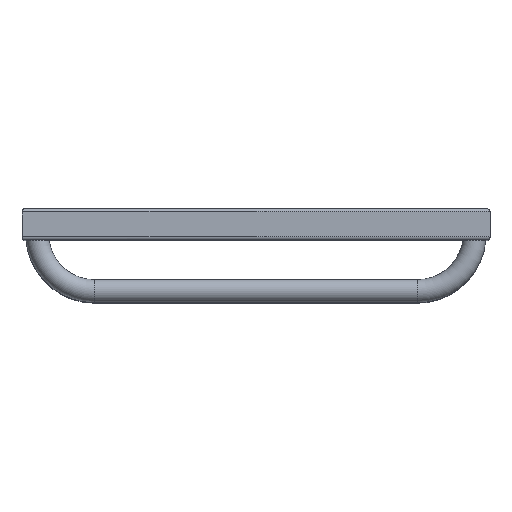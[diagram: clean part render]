
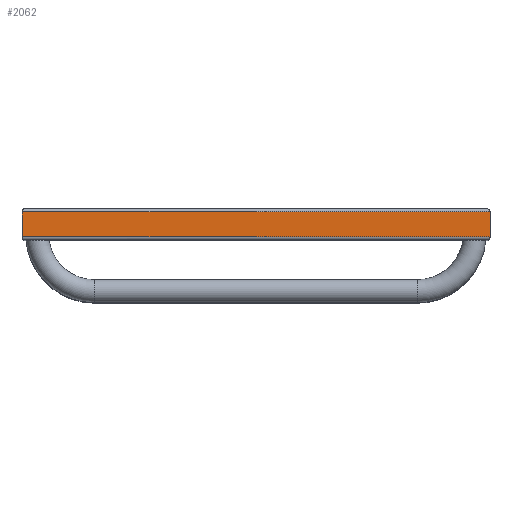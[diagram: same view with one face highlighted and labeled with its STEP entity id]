
A CAD part, top view. The second image highlights one B-rep face of the part: STEP entity #2062.
In plain terms, the highlighted planar face has unit normal (0, 0, 1).
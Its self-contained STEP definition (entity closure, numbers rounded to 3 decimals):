
#355=CARTESIAN_POINT('',(225.0,12.,530.0));
#356=VERTEX_POINT('',#355);
#363=CARTESIAN_POINT('',(225.0,-12.,530.0));
#364=VERTEX_POINT('',#363);
#365=CARTESIAN_POINT('',(225.0,12.,530.0));
#366=DIRECTION('',(0.0,-1.0,0.0));
#367=VECTOR('',#366,24.);
#368=LINE('',#365,#367);
#369=EDGE_CURVE('',#356,#364,#368,.T.);
#1913=CARTESIAN_POINT('',(-225.0,12.,530.0));
#1914=VERTEX_POINT('',#1913);
#1915=CARTESIAN_POINT('',(-225.0,12.,530.0));
#1916=DIRECTION('',(1.0,0.0,0.0));
#1917=VECTOR('',#1916,450.0);
#1918=LINE('',#1915,#1917);
#1919=EDGE_CURVE('',#1914,#356,#1918,.T.);
#1957=CARTESIAN_POINT('',(-225.0,-12.,530.0));
#1958=VERTEX_POINT('',#1957);
#1965=CARTESIAN_POINT('',(-225.0,-12.,530.0));
#1966=DIRECTION('',(0.0,1.0,0.0));
#1967=VECTOR('',#1966,24.0);
#1968=LINE('',#1965,#1967);
#1969=EDGE_CURVE('',#1958,#1914,#1968,.T.);
#2021=CARTESIAN_POINT('',(225.0,-12.,530.0));
#2022=DIRECTION('',(-1.0,0.0,0.0));
#2023=VECTOR('',#2022,450.0);
#2024=LINE('',#2021,#2023);
#2025=EDGE_CURVE('',#364,#1958,#2024,.T.);
#2051=CARTESIAN_POINT('',(210.0,0.,530.0));
#2052=DIRECTION('',(0.0,0.0,1.0));
#2053=DIRECTION('',(1.0,0.0,0.0));
#2054=AXIS2_PLACEMENT_3D('',#2051,#2052,#2053);
#2055=PLANE('',#2054);
#2056=ORIENTED_EDGE('',*,*,#1919,.F.);
#2057=ORIENTED_EDGE('',*,*,#1969,.F.);
#2058=ORIENTED_EDGE('',*,*,#2025,.F.);
#2059=ORIENTED_EDGE('',*,*,#369,.F.);
#2060=EDGE_LOOP('',(#2056,#2057,#2058,#2059));
#2061=FACE_OUTER_BOUND('',#2060,.T.);
#2062=ADVANCED_FACE('',(#2061),#2055,.T.);
